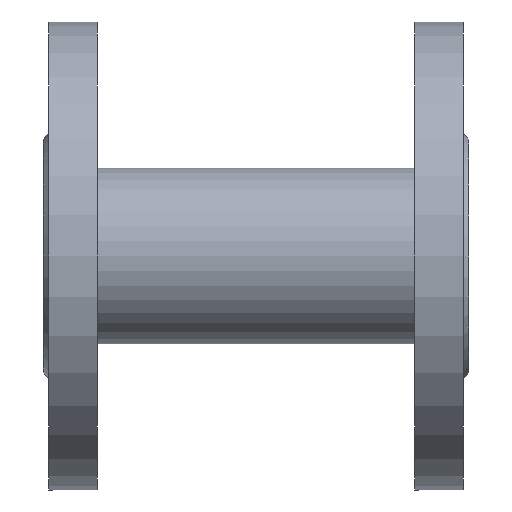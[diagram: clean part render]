
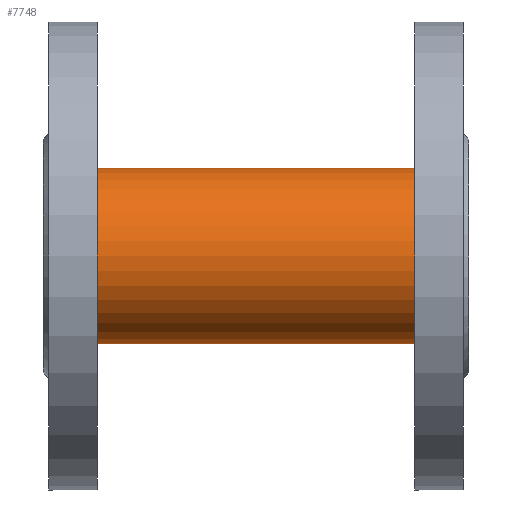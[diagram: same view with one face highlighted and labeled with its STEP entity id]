
A CAD part, front view. The second image highlights one B-rep face of the part: STEP entity #7748.
In plain terms, the highlighted cylindrical face has radius 31 mm (diameter 62 mm), a full revolution.
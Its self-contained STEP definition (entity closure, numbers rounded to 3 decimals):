
#1425=LINE('',#40606,#3261);
#1426=LINE('',#40612,#3262);
#3261=VECTOR('',#32876,1.);
#3262=VECTOR('',#32881,1.);
#5336=ELLIPSE('',#30012,43.841,31.);
#5337=ELLIPSE('',#30013,43.841,31.);
#5338=ELLIPSE('',#30014,43.841,31.);
#5339=ELLIPSE('',#30015,43.841,31.);
#7063=CYLINDRICAL_SURFACE('',#30018,31.);
#7748=ADVANCED_FACE('',(#10521,#10522,#10523),#7063,.T.);
#10521=FACE_BOUND('',#12024,.T.);
#10522=FACE_BOUND('',#12025,.T.);
#10523=FACE_BOUND('',#12026,.T.);
#12024=EDGE_LOOP('',(#14700,#14701,#14702,#14703,#14704,#14705));
#12025=EDGE_LOOP('',(#14706));
#12026=EDGE_LOOP('',(#14707));
#14700=ORIENTED_EDGE('',*,*,#24984,.T.);
#14701=ORIENTED_EDGE('',*,*,#24985,.T.);
#14702=ORIENTED_EDGE('',*,*,#24986,.T.);
#14703=ORIENTED_EDGE('',*,*,#24987,.T.);
#14704=ORIENTED_EDGE('',*,*,#24988,.T.);
#14705=ORIENTED_EDGE('',*,*,#24989,.T.);
#14706=ORIENTED_EDGE('',*,*,#24990,.F.);
#14707=ORIENTED_EDGE('',*,*,#24991,.F.);
#22290=VERTEX_POINT('',#40602);
#22291=VERTEX_POINT('',#40603);
#22292=VERTEX_POINT('',#40605);
#22293=VERTEX_POINT('',#40607);
#22294=VERTEX_POINT('',#40609);
#22295=VERTEX_POINT('',#40611);
#22296=VERTEX_POINT('',#40614);
#22297=VERTEX_POINT('',#40616);
#24984=EDGE_CURVE('',#22290,#22291,#5336,.T.);
#24985=EDGE_CURVE('',#22291,#22292,#5337,.T.);
#24986=EDGE_CURVE('',#22292,#22293,#1425,.T.);
#24987=EDGE_CURVE('',#22293,#22294,#5338,.T.);
#24988=EDGE_CURVE('',#22294,#22295,#5339,.T.);
#24989=EDGE_CURVE('',#22295,#22290,#1426,.T.);
#24990=EDGE_CURVE('',#22296,#22296,#28786,.T.);
#24991=EDGE_CURVE('',#22297,#22297,#28787,.T.);
#28786=CIRCLE('',#30016,31.);
#28787=CIRCLE('',#30017,31.);
#30012=AXIS2_PLACEMENT_3D('',#40601,#32872,#32873);
#30013=AXIS2_PLACEMENT_3D('',#40604,#32874,#32875);
#30014=AXIS2_PLACEMENT_3D('',#40608,#32877,#32878);
#30015=AXIS2_PLACEMENT_3D('',#40610,#32879,#32880);
#30016=AXIS2_PLACEMENT_3D('',#40613,#32882,#32883);
#30017=AXIS2_PLACEMENT_3D('',#40615,#32884,#32885);
#30018=AXIS2_PLACEMENT_3D('',#40617,#32886,#32887);
#32872=DIRECTION('',(-0.707,-0.707,0.));
#32873=DIRECTION('',(-0.707,0.707,0.));
#32874=DIRECTION('',(-0.707,-0.707,0.));
#32875=DIRECTION('',(-0.707,0.707,0.));
#32876=DIRECTION('',(1.,0.,0.));
#32877=DIRECTION('',(0.707,-0.707,0.));
#32878=DIRECTION('',(-0.707,-0.707,0.));
#32879=DIRECTION('',(0.707,-0.707,0.));
#32880=DIRECTION('',(-0.707,-0.707,0.));
#32881=DIRECTION('',(-1.,0.,0.));
#32882=DIRECTION('',(1.,0.,0.));
#32883=DIRECTION('',(0.,0.,1.));
#32884=DIRECTION('',(-1.,0.,0.));
#32885=DIRECTION('',(0.,0.,-1.));
#32886=DIRECTION('',(-1.,0.,0.));
#32887=DIRECTION('',(0.,0.,1.));
#40601=CARTESIAN_POINT('',(50.,-27.49,-29.5));
#40602=CARTESIAN_POINT('',(20.,2.51,-21.69));
#40603=CARTESIAN_POINT('',(19.,3.51,-29.5));
#40604=CARTESIAN_POINT('',(50.,-27.49,-29.5));
#40605=CARTESIAN_POINT('',(20.,2.51,-37.31));
#40606=CARTESIAN_POINT('',(20.,2.51,-37.31));
#40607=CARTESIAN_POINT('',(70.,2.51,-37.31));
#40608=CARTESIAN_POINT('',(40.,-27.49,-29.5));
#40609=CARTESIAN_POINT('',(71.,3.51,-29.5));
#40610=CARTESIAN_POINT('',(40.,-27.49,-29.5));
#40611=CARTESIAN_POINT('',(70.,2.51,-21.69));
#40612=CARTESIAN_POINT('',(70.,2.51,-21.69));
#40613=CARTESIAN_POINT('',(101.,-27.49,-29.5));
#40614=CARTESIAN_POINT('',(101.,-27.49,1.5));
#40615=CARTESIAN_POINT('',(-11.,-27.49,-29.5));
#40616=CARTESIAN_POINT('',(-11.,-27.49,-60.5));
#40617=CARTESIAN_POINT('',(76.,-27.49,-29.5));
